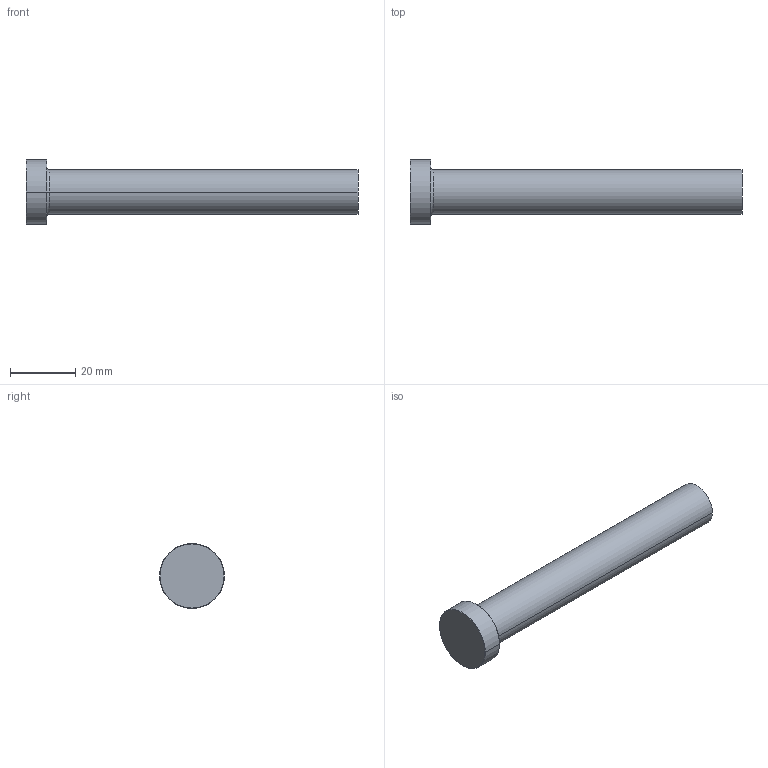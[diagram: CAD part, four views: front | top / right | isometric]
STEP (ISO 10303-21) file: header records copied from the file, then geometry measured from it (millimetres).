
FILE_DESCRIPTION (( 'STEP AP214' ), '1' );
FILE_NAME ('P34-4.STEP', '2020-03-12T11:50:01', ( '' ), ( '' ), 'SwSTEP 2.0', 'SolidWorks 2018', '' );
FILE_SCHEMA (( 'AUTOMOTIVE_DESIGN' ));
Length unit declared in the file: inch
Products named in the file (1): P34-4
Bounding box: 101.6 x 19.84 x 19.84 mm (x, y, z)
Volume: 15564.4 mm3; surface area: 5027.4 mm2
Topology: 1 solids, 1 shells, 13 faces, 24 edges, 14 vertices
Faces by surface type: cone 4, cylinder 4, plane 3, torus 2
Entity records: 366 total; most frequent: DIRECTION 68, CARTESIAN_POINT 52, ORIENTED_EDGE 48, AXIS2_PLACEMENT_3D 30, EDGE_CURVE 24, CIRCLE 16, EDGE_LOOP 14, VERTEX_POINT 14
